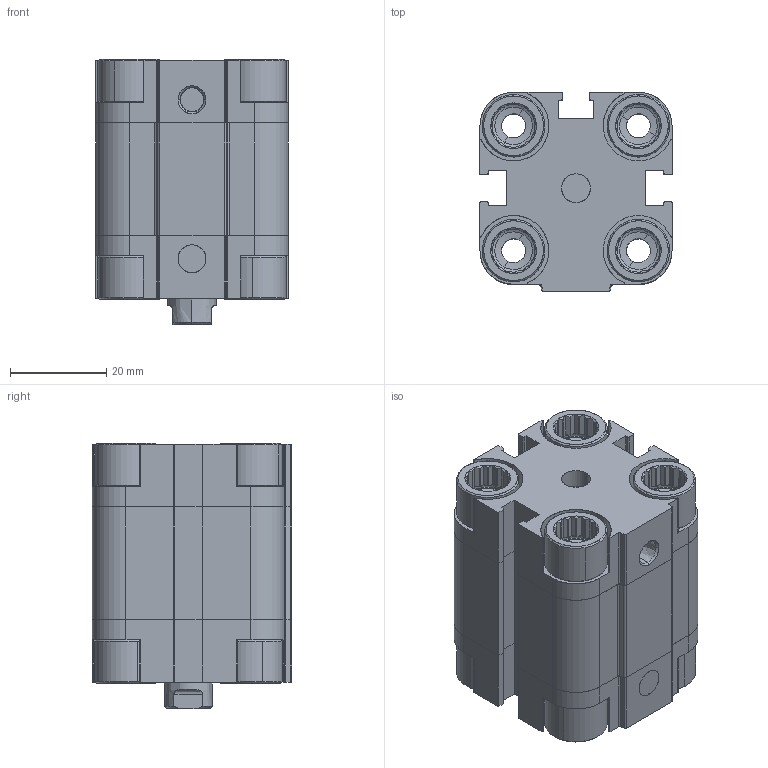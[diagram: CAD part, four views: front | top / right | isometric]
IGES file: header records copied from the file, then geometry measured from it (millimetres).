
Start section: SolidWorks IGES file using analytic representation for surfaces
Global section: file name: D:\ARICA 3D ÇÝZÝMLER\3D IGES\AEVU-S\AEVU-S 25\AEVU25X0-S-CYLINDER.IGS; native system: SolidWorks 2013; preprocessor: SolidWorks 2013; author: user; date: 150606.092511; units: millimetre
Bounding box: 40 x 41.5 x 55.2 mm (x, y, z)
Surface area: 43270.7 mm2 (no closed solid volume)
Topology: 0 solids, 0 shells, 1484 faces, 15076 edges, 15075 vertices
Faces by surface type: bspline 743, revolution 741
